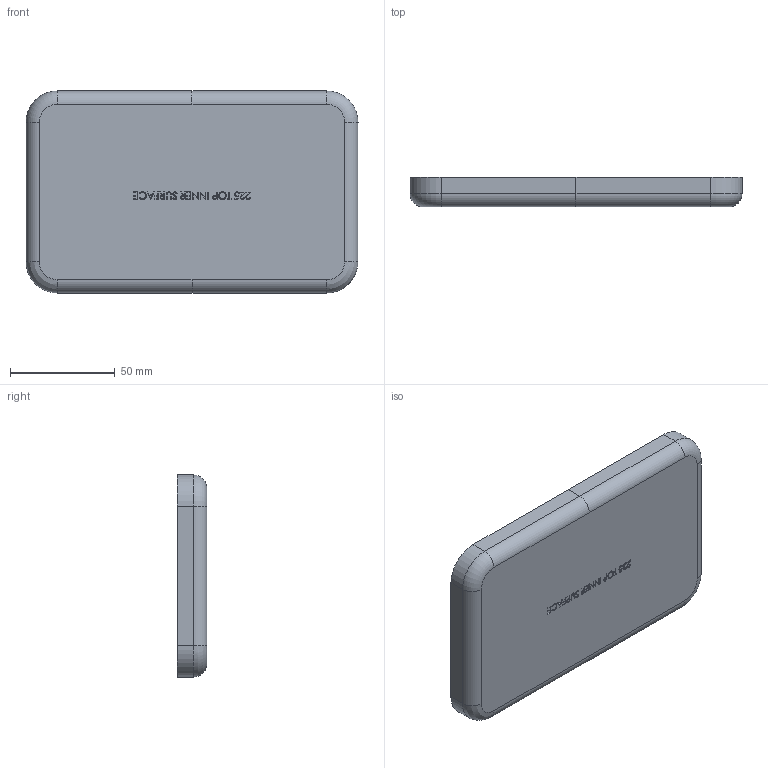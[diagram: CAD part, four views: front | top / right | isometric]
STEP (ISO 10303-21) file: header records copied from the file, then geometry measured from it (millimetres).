
FILE_DESCRIPTION (( 'STEP AP203' ), '1' );
FILE_NAME ('225_TOP INNER SURFACES_STEP.STEP', '2023-08-28T21:08:31', ( '' ), ( '' ), 'SwSTEP 2.0', 'SolidWorks 2022', '' );
FILE_SCHEMA (( 'CONFIG_CONTROL_DESIGN' ));
Length unit declared in the file: inch
Products named in the file (1): 225_TOP INNER SURFACES_STEP
Bounding box: 158.19 x 14.1 x 96.29 mm (x, y, z)
Volume: 66193.9 mm3; surface area: 39365.4 mm2
Topology: 1 solids, 1 shells, 412 faces, 1062 edges, 668 vertices
Faces by surface type: plane 183, bspline 171, cylinder 34, torus 12, sphere 8, cone 4
Entity records: 22979 total; most frequent: CARTESIAN_POINT 14132, ORIENTED_EDGE 2108, DIRECTION 1330, EDGE_CURVE 1054, VERTEX_POINT 668, LINE 570, VECTOR 570, EDGE_LOOP 436
